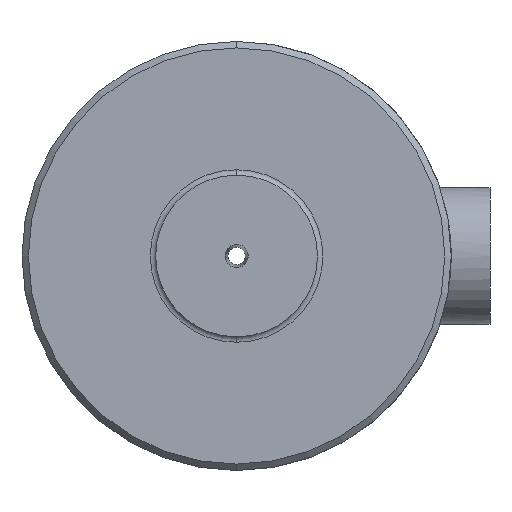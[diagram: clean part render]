
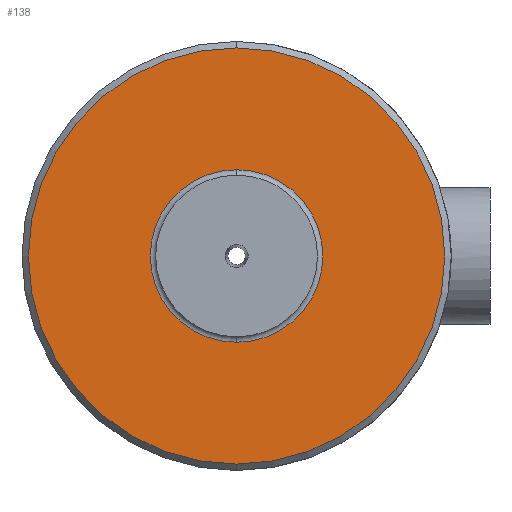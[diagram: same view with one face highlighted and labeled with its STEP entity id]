
A CAD part, front view. The second image highlights one B-rep face of the part: STEP entity #138.
In plain terms, the highlighted planar face has unit normal (0, -1, 0).
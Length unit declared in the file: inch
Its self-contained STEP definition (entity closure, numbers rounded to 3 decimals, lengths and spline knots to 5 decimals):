
#114 = EDGE_CURVE ( 'NONE', #147, #356, #617, .T. ) ;
#122 = EDGE_LOOP ( 'NONE', ( #137, #227 ) ) ;
#125 = EDGE_LOOP ( 'NONE', ( #139, #136 ) ) ;
#136 = ORIENTED_EDGE ( 'NONE', *, *, #146, .T. ) ;
#137 = ORIENTED_EDGE ( 'NONE', *, *, #185, .F. ) ;
#138 = ADVANCED_FACE ( 'NONE', ( #682, #670 ), #671, .T. ) ;
#139 = ORIENTED_EDGE ( 'NONE', *, *, #114, .T. ) ;
#146 = EDGE_CURVE ( 'NONE', #356, #147, #706, .T. ) ;
#147 = VERTEX_POINT ( 'NONE', #701 ) ;
#185 = EDGE_CURVE ( 'NONE', #186, #187, #803, .T. ) ;
#186 = VERTEX_POINT ( 'NONE', #797 ) ;
#187 = VERTEX_POINT ( 'NONE', #796 ) ;
#227 = ORIENTED_EDGE ( 'NONE', *, *, #228, .F. ) ;
#228 = EDGE_CURVE ( 'NONE', #187, #186, #1271, .T. ) ;
#356 = VERTEX_POINT ( 'NONE', #936 ) ;
#613 = DIRECTION ( 'NONE',  ( 0., 0., 1. ) ) ;
#614 = DIRECTION ( 'NONE',  ( 0., 1., 0. ) ) ;
#615 = CARTESIAN_POINT ( 'NONE',  ( 0., -1., 0. ) ) ;
#616 = AXIS2_PLACEMENT_3D ( 'NONE', #615, #614, #613 ) ;
#617 = CIRCLE ( 'NONE', #616, 0.4 ) ;
#668 = CARTESIAN_POINT ( 'NONE',  ( 0.965, -1., 0. ) ) ;
#669 = AXIS2_PLACEMENT_3D ( 'NONE', #668, #676, #675 ) ;
#670 = FACE_OUTER_BOUND ( 'NONE', #122, .T. ) ;
#671 = PLANE ( 'NONE',  #669 ) ;
#675 = DIRECTION ( 'NONE',  ( 0., 0., -1. ) ) ;
#676 = DIRECTION ( 'NONE',  ( 0., -1., 0. ) ) ;
#682 = FACE_BOUND ( 'NONE', #125, .T. ) ;
#701 = CARTESIAN_POINT ( 'NONE',  ( 0., -1., 0.4 ) ) ;
#702 = DIRECTION ( 'NONE',  ( 0., 0., 1. ) ) ;
#703 = DIRECTION ( 'NONE',  ( 0., 1., 0. ) ) ;
#704 = CARTESIAN_POINT ( 'NONE',  ( 0., -1., 0. ) ) ;
#705 = AXIS2_PLACEMENT_3D ( 'NONE', #704, #703, #702 ) ;
#706 = CIRCLE ( 'NONE', #705, 0.4 ) ;
#796 = CARTESIAN_POINT ( 'NONE',  ( 0., -1., -0.965 ) ) ;
#797 = CARTESIAN_POINT ( 'NONE',  ( 0., -1., 0.965 ) ) ;
#799 = DIRECTION ( 'NONE',  ( 0., 0., 1. ) ) ;
#800 = DIRECTION ( 'NONE',  ( 0., 1., 0. ) ) ;
#801 = CARTESIAN_POINT ( 'NONE',  ( 0., -1., 0. ) ) ;
#802 = AXIS2_PLACEMENT_3D ( 'NONE', #801, #800, #799 ) ;
#803 = CIRCLE ( 'NONE', #802, 0.965 ) ;
#936 = CARTESIAN_POINT ( 'NONE',  ( 0., -1., -0.4 ) ) ;
#1271 = CIRCLE ( 'NONE', #1278, 0.965 ) ;
#1275 = DIRECTION ( 'NONE',  ( 0., 0., 1. ) ) ;
#1276 = DIRECTION ( 'NONE',  ( 0., 1., 0. ) ) ;
#1277 = CARTESIAN_POINT ( 'NONE',  ( 0., -1., 0. ) ) ;
#1278 = AXIS2_PLACEMENT_3D ( 'NONE', #1277, #1276, #1275 ) ;
